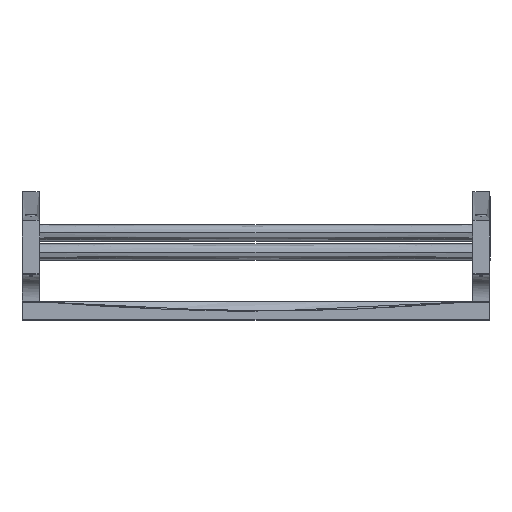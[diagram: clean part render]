
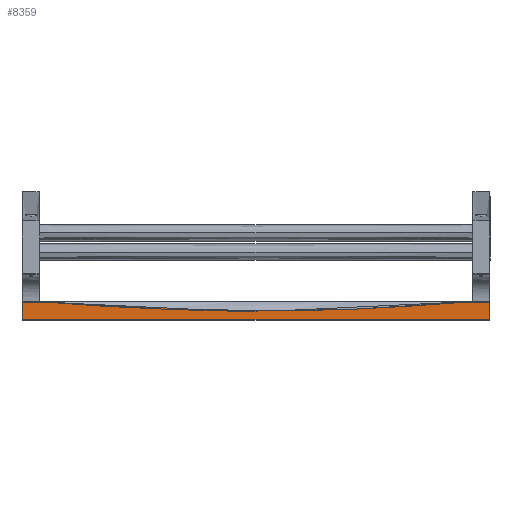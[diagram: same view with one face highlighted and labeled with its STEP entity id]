
A CAD part, front view. The second image highlights one B-rep face of the part: STEP entity #8359.
In plain terms, the highlighted planar face has unit normal (0, -1, 0).
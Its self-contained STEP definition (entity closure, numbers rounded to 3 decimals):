
#15=ELLIPSE('',#9025,8835.122,6247.375);
#1056=PLANE('',#9030);
#1580=FACE_OUTER_BOUND('',#2189,.T.);
#2189=EDGE_LOOP('',(#7597,#7598,#7599,#7600,#7601,#7602));
#2505=LINE('',#30900,#2850);
#2507=LINE('',#30935,#2852);
#2510=LINE('',#30946,#2855);
#2513=LINE('',#30965,#2858);
#2530=LINE('',#31011,#2875);
#2850=VECTOR('',#10424,10.);
#2852=VECTOR('',#10448,10.);
#2855=VECTOR('',#10461,10.);
#2858=VECTOR('',#10484,10.);
#2875=VECTOR('',#10541,10.);
#3968=VERTEX_POINT('',#30875);
#3971=VERTEX_POINT('',#30882);
#3977=VERTEX_POINT('',#30896);
#3981=VERTEX_POINT('',#30928);
#3986=VERTEX_POINT('',#30941);
#3990=VERTEX_POINT('',#30958);
#5155=EDGE_CURVE('',#3968,#3977,#2505,.T.);
#5165=EDGE_CURVE('',#3981,#3971,#2507,.T.);
#5171=EDGE_CURVE('',#3977,#3986,#2510,.T.);
#5180=EDGE_CURVE('',#3990,#3981,#2513,.T.);
#5206=EDGE_CURVE('',#3986,#3990,#2530,.T.);
#5211=EDGE_CURVE('',#3971,#3968,#15,.T.);
#7597=ORIENTED_EDGE('',*,*,#5165,.F.);
#7598=ORIENTED_EDGE('',*,*,#5180,.F.);
#7599=ORIENTED_EDGE('',*,*,#5206,.F.);
#7600=ORIENTED_EDGE('',*,*,#5171,.F.);
#7601=ORIENTED_EDGE('',*,*,#5155,.F.);
#7602=ORIENTED_EDGE('',*,*,#5211,.F.);
#8359=ADVANCED_FACE('',(#1580),#1056,.T.);
#9025=AXIS2_PLACEMENT_3D('',#31049,#10550,#10551);
#9030=AXIS2_PLACEMENT_3D('',#31070,#10560,#10561);
#10424=DIRECTION('',(1.,0.,0.));
#10448=DIRECTION('',(1.,0.,0.));
#10461=DIRECTION('',(0.,0.,-1.));
#10484=DIRECTION('',(0.,0.,1.));
#10541=DIRECTION('',(-1.,0.,0.));
#10550=DIRECTION('center_axis',(0.,-1.,0.));
#10551=DIRECTION('ref_axis',(0.,0.,
-1.));
#10560=DIRECTION('center_axis',(0.,-1.,0.));
#10561=DIRECTION('ref_axis',(-1.,0.,0.));
#30875=CARTESIAN_POINT('',(380.299,460.,-1.));
#30882=CARTESIAN_POINT('',(-380.299,460.,-1.));
#30896=CARTESIAN_POINT('',(424.,460.,-1.));
#30900=CARTESIAN_POINT('',(212.5,460.,-1.));
#30928=CARTESIAN_POINT('',(-424.,460.,-1.));
#30935=CARTESIAN_POINT('',(212.5,460.,-1.));
#30941=CARTESIAN_POINT('',(424.,460.,-33.));
#30946=CARTESIAN_POINT('',(424.,460.,0.));
#30958=CARTESIAN_POINT('',(-424.,460.,-33.));
#30965=CARTESIAN_POINT('',(-424.,460.,0.));
#31011=CARTESIAN_POINT('',(212.5,460.,-33.));
#31049=CARTESIAN_POINT('Origin',(0.,460.,8817.738));
#31070=CARTESIAN_POINT('Origin',(425.,460.,0.));
